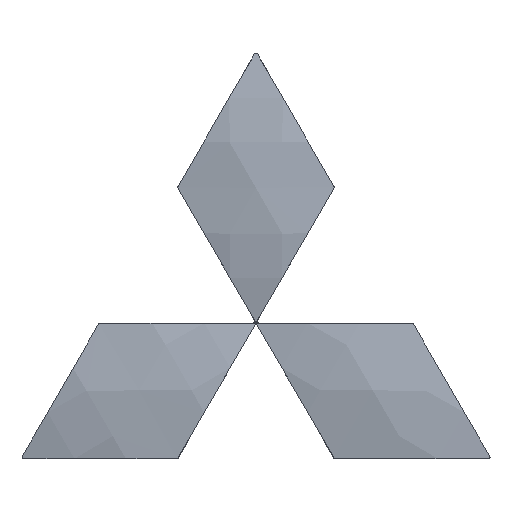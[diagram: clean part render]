
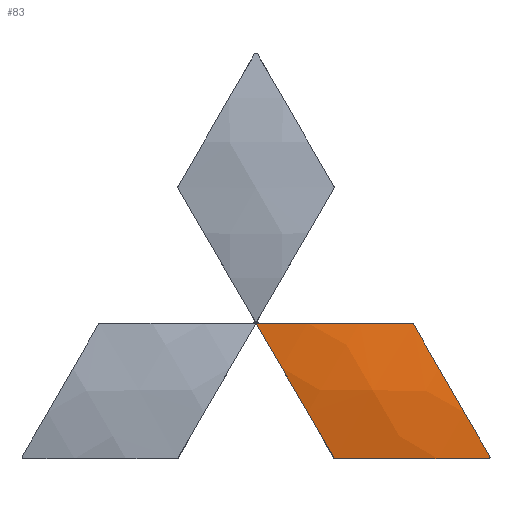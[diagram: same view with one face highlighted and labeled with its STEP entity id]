
A CAD part, top view. The second image highlights one B-rep face of the part: STEP entity #83.
In plain terms, the highlighted free-form (B-spline) face has degree [3, 3] with [4, 4] control points.
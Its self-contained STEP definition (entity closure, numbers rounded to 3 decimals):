
#83 = ADVANCED_FACE( '', ( #195 ), #196, .T. );
#195 = FACE_OUTER_BOUND( '', #378, .T. );
#196 = ( BOUNDED_SURFACE(  )B_SPLINE_SURFACE( 3, 3, ( ( #381, #382, #383, #384 ), ( #385, #386, #387, #388 ), ( #389, #390, #391, #392 ), ( #393, #394, #395, #396 ) ), .UNSPECIFIED., .F., .F., .F. )B_SPLINE_SURFACE_WITH_KNOTS( ( 4, 4 ), ( 4, 4 ), ( 1.313, 1.829 ), ( -0.256, 0.253 ), .UNSPECIFIED. )GEOMETRIC_REPRESENTATION_ITEM(  )RATIONAL_B_SPLINE_SURFACE( ( ( 1., 0.978, 0.978, 1. ), ( 0.979, 0.957, 0.957, 0.979 ), ( 0.979, 0.957, 0.957, 0.979 ), ( 1., 0.978, 0.978, 1. ) ) )REPRESENTATION_ITEM( '' )SURFACE(  ) );
#378 = EDGE_LOOP( '', ( #902, #903, #904, #905, #906, #907, #908 ) );
#381 = CARTESIAN_POINT( '', ( 50.169, -13.091, 2.041 ) );
#382 = CARTESIAN_POINT( '', ( 45.638, -20.938, 4.435 ) );
#383 = CARTESIAN_POINT( '', ( 40.952, -29.055, 4.435 ) );
#384 = CARTESIAN_POINT( '', ( 36.421, -36.902, 2.041 ) );
#385 = CARTESIAN_POINT( '', ( 36.353, -3.852, 6.18 ) );
#386 = CARTESIAN_POINT( '', ( 31.462, -12.323, 8.764 ) );
#387 = CARTESIAN_POINT( '', ( 26.403, -21.085, 8.764 ) );
#388 = CARTESIAN_POINT( '', ( 21.512, -29.556, 6.18 ) );
#389 = CARTESIAN_POINT( '', ( 21.516, 4.707, 6.155 ) );
#390 = CARTESIAN_POINT( '', ( 16.627, -3.761, 8.737 ) );
#391 = CARTESIAN_POINT( '', ( 11.57, -12.519, 8.737 ) );
#392 = CARTESIAN_POINT( '', ( 6.682, -20.986, 6.155 ) );
#393 = CARTESIAN_POINT( '', ( 6.611, 12.034, 1.966 ) );
#394 = CARTESIAN_POINT( '', ( 2.087, 4.198, 4.356 ) );
#395 = CARTESIAN_POINT( '', ( -2.592, -3.907, 4.356 ) );
#396 = CARTESIAN_POINT( '', ( -7.116, -11.743, 1.966 ) );
#902 = ORIENTED_EDGE( '', *, *, #1195, .T. );
#903 = ORIENTED_EDGE( '', *, *, #1156, .T. );
#904 = ORIENTED_EDGE( '', *, *, #1190, .T. );
#905 = ORIENTED_EDGE( '', *, *, #1196, .T. );
#906 = ORIENTED_EDGE( '', *, *, #1197, .T. );
#907 = ORIENTED_EDGE( '', *, *, #1198, .T. );
#908 = ORIENTED_EDGE( '', *, *, #1199, .T. );
#1156 = EDGE_CURVE( '', #1302, #1300, #1303, .T. );
#1190 = EDGE_CURVE( '', #1300, #1357, #1359, .T. );
#1195 = EDGE_CURVE( '', #1365, #1302, #1366, .T. );
#1196 = EDGE_CURVE( '', #1357, #1367, #1368, .T. );
#1197 = EDGE_CURVE( '', #1367, #1369, #1370, .T. );
#1198 = EDGE_CURVE( '', #1369, #1371, #1372, .T. );
#1199 = EDGE_CURVE( '', #1371, #1365, #1373, .T. );
#1300 = VERTEX_POINT( '', #1505 );
#1302 = VERTEX_POINT( '', #1508 );
#1303 = B_SPLINE_CURVE_WITH_KNOTS( '', 3, ( #1509, #1510, #1511, #1512, #1513, #1514, #1515, #1516 ), .UNSPECIFIED., .F., .F., ( 4, 2, 2, 4 ), ( -0.001, 0.007, 0.014, 0.028 ), .UNSPECIFIED. );
#1357 = VERTEX_POINT( '', #1743 );
#1359 = B_SPLINE_CURVE_WITH_KNOTS( '', 3, ( #1746, #1747, #1748, #1749 ), .UNSPECIFIED., .F., .F., ( 4, 4 ), ( 0., 0. ), .UNSPECIFIED. );
#1365 = VERTEX_POINT( '', #1761 );
#1366 = B_SPLINE_CURVE_WITH_KNOTS( '', 3, ( #1762, #1763, #1764, #1765, #1766, #1767, #1768, #1769, #1770, #1771, #1772, #1773 ), .UNSPECIFIED., .F., .F., ( 4, 2, 2, 2, 2, 4 ), ( 0.375, 0.382, 0.386, 0.389, 0.396, 0.403 ), .UNSPECIFIED. );
#1367 = VERTEX_POINT( '', #1774 );
#1368 = B_SPLINE_CURVE_WITH_KNOTS( '', 3, ( #1775, #1776, #1777, #1778, #1779, #1780, #1781, #1782, #1783, #1784, #1785, #1786 ), .UNSPECIFIED., .F., .F., ( 4, 2, 2, 2, 2, 4 ), ( 0.379, 0.386, 0.39, 0.392, 0.393, 0.408 ), .UNSPECIFIED. );
#1369 = VERTEX_POINT( '', #1787 );
#1370 = B_SPLINE_CURVE_WITH_KNOTS( '', 3, ( #1788, #1789, #1790, #1791, #1792, #1793 ), .UNSPECIFIED., .F., .F., ( 4, 2, 4 ), ( 0., 0., 0.001 ), .UNSPECIFIED. );
#1371 = VERTEX_POINT( '', #1794 );
#1372 = B_SPLINE_CURVE_WITH_KNOTS( '', 3, ( #1795, #1796, #1797, #1798, #1799, #1800 ), .UNSPECIFIED., .F., .F., ( 4, 2, 4 ), ( 0., 0.014, 0.028 ), .UNSPECIFIED. );
#1373 = B_SPLINE_CURVE_WITH_KNOTS( '', 3, ( #1801, #1802, #1803, #1804 ), .UNSPECIFIED., .F., .F., ( 4, 4 ), ( 0., 0. ), .UNSPECIFIED. );
#1505 = CARTESIAN_POINT( '', ( 14.347, -24.85, 5.165 ) );
#1508 = CARTESIAN_POINT( '', ( 0., 0., 3.825 ) );
#1509 = CARTESIAN_POINT( '', ( 0., 0., 3.825 ) );
#1510 = CARTESIAN_POINT( '', ( 1.185, -2.053, 4.355 ) );
#1511 = CARTESIAN_POINT( '', ( 2.375, -4.114, 4.778 ) );
#1512 = CARTESIAN_POINT( '', ( 4.757, -8.24, 5.416 ) );
#1513 = CARTESIAN_POINT( '', ( 5.951, -10.307, 5.632 ) );
#1514 = CARTESIAN_POINT( '', ( 9.538, -16.519, 5.969 ) );
#1515 = CARTESIAN_POINT( '', ( 11.938, -20.677, 5.785 ) );
#1516 = CARTESIAN_POINT( '', ( 14.347, -24.85, 5.165 ) );
#1743 = CARTESIAN_POINT( '', ( 14.607, -25., 5.165 ) );
#1746 = CARTESIAN_POINT( '', ( 14.347, -24.85, 5.165 ) );
#1747 = CARTESIAN_POINT( '', ( 14.4, -24.941, 5.151 ) );
#1748 = CARTESIAN_POINT( '', ( 14.502, -25., 5.151 ) );
#1749 = CARTESIAN_POINT( '', ( 14.607, -25., 5.165 ) );
#1761 = CARTESIAN_POINT( '', ( 28.694, 0., 5.165 ) );
#1762 = CARTESIAN_POINT( '', ( 28.694, 0., 5.165 ) );
#1763 = CARTESIAN_POINT( '', ( 26.321, 0., 5.47 ) );
#1764 = CARTESIAN_POINT( '', ( 23.932, 0., 5.672 ) );
#1765 = CARTESIAN_POINT( '', ( 20.324, 0., 5.817 ) );
#1766 = CARTESIAN_POINT( '', ( 19.115, 0., 5.839 ) );
#1767 = CARTESIAN_POINT( '', ( 16.697, 0., 5.831 ) );
#1768 = CARTESIAN_POINT( '', ( 15.489, 0., 5.8 ) );
#1769 = CARTESIAN_POINT( '', ( 11.869, 0., 5.63 ) );
#1770 = CARTESIAN_POINT( '', ( 9.454, 0., 5.41 ) );
#1771 = CARTESIAN_POINT( '', ( 4.689, 0., 4.768 ) );
#1772 = CARTESIAN_POINT( '', ( 2.332, 0., 4.346 ) );
#1773 = CARTESIAN_POINT( '', ( 0., 0., 3.825 ) );
#1774 = CARTESIAN_POINT( '', ( 42.782, -25., 3.939 ) );
#1775 = CARTESIAN_POINT( '', ( 14.607, -25., 5.165 ) );
#1776 = CARTESIAN_POINT( '', ( 16.943, -25., 5.465 ) );
#1777 = CARTESIAN_POINT( '', ( 19.297, -25., 5.666 ) );
#1778 = CARTESIAN_POINT( '', ( 22.857, -25., 5.814 ) );
#1779 = CARTESIAN_POINT( '', ( 24.047, -25., 5.837 ) );
#1780 = CARTESIAN_POINT( '', ( 25.829, -25., 5.835 ) );
#1781 = CARTESIAN_POINT( '', ( 26.423, -25., 5.827 ) );
#1782 = CARTESIAN_POINT( '', ( 27.611, -25., 5.8 ) );
#1783 = CARTESIAN_POINT( '', ( 28.206, -25., 5.78 ) );
#1784 = CARTESIAN_POINT( '', ( 33.538, -25., 5.543 ) );
#1785 = CARTESIAN_POINT( '', ( 38.198, -25., 4.933 ) );
#1786 = CARTESIAN_POINT( '', ( 42.782, -25., 3.939 ) );
#1787 = CARTESIAN_POINT( '', ( 43.041, -24.55, 3.939 ) );
#1788 = CARTESIAN_POINT( '', ( 42.782, -25., 3.939 ) );
#1789 = CARTESIAN_POINT( '', ( 42.886, -25., 3.916 ) );
#1790 = CARTESIAN_POINT( '', ( 42.988, -24.942, 3.902 ) );
#1791 = CARTESIAN_POINT( '', ( 43.094, -24.758, 3.902 ) );
#1792 = CARTESIAN_POINT( '', ( 43.094, -24.64, 3.916 ) );
#1793 = CARTESIAN_POINT( '', ( 43.041, -24.55, 3.939 ) );
#1794 = CARTESIAN_POINT( '', ( 28.954, -0.15, 5.165 ) );
#1795 = CARTESIAN_POINT( '', ( 43.041, -24.55, 3.939 ) );
#1796 = CARTESIAN_POINT( '', ( 40.711, -20.514, 4.95 ) );
#1797 = CARTESIAN_POINT( '', ( 38.372, -16.462, 5.55 ) );
#1798 = CARTESIAN_POINT( '', ( 33.676, -8.329, 5.962 ) );
#1799 = CARTESIAN_POINT( '', ( 31.32, -4.247, 5.774 ) );
#1800 = CARTESIAN_POINT( '', ( 28.954, -0.15, 5.165 ) );
#1801 = CARTESIAN_POINT( '', ( 28.954, -0.15, 5.165 ) );
#1802 = CARTESIAN_POINT( '', ( 28.902, -0.059, 5.151 ) );
#1803 = CARTESIAN_POINT( '', ( 28.799, 0., 5.151 ) );
#1804 = CARTESIAN_POINT( '', ( 28.694, 0., 5.165 ) );
